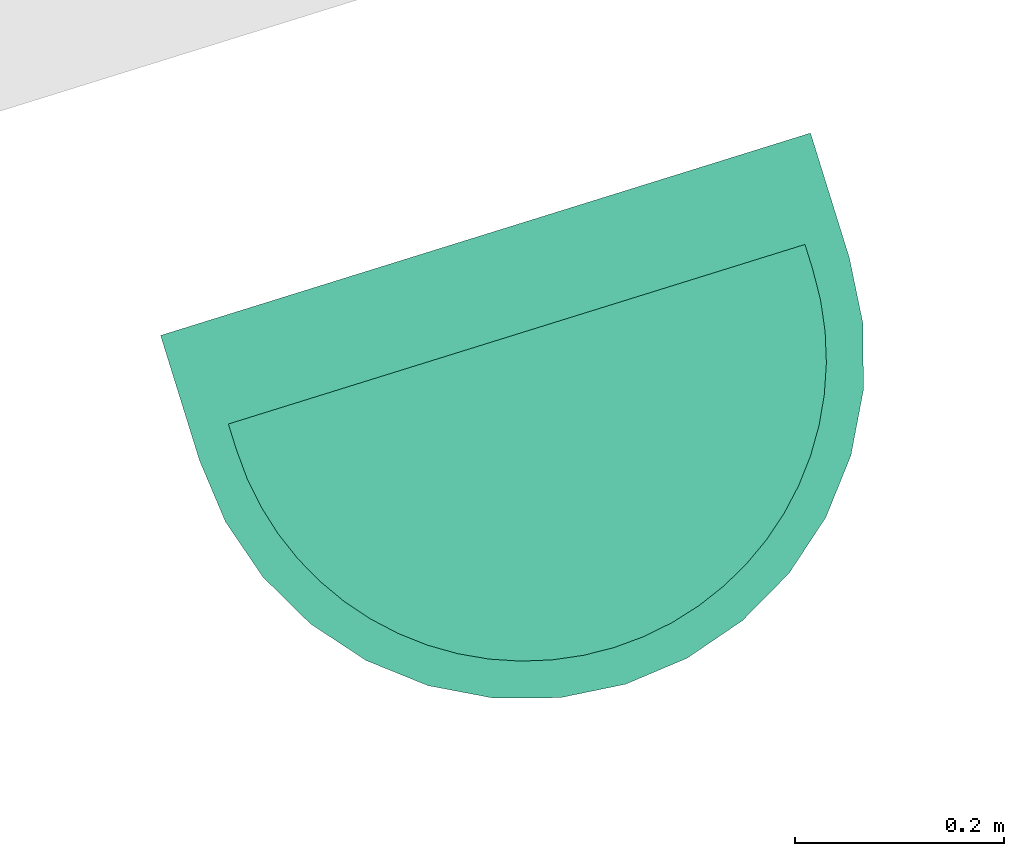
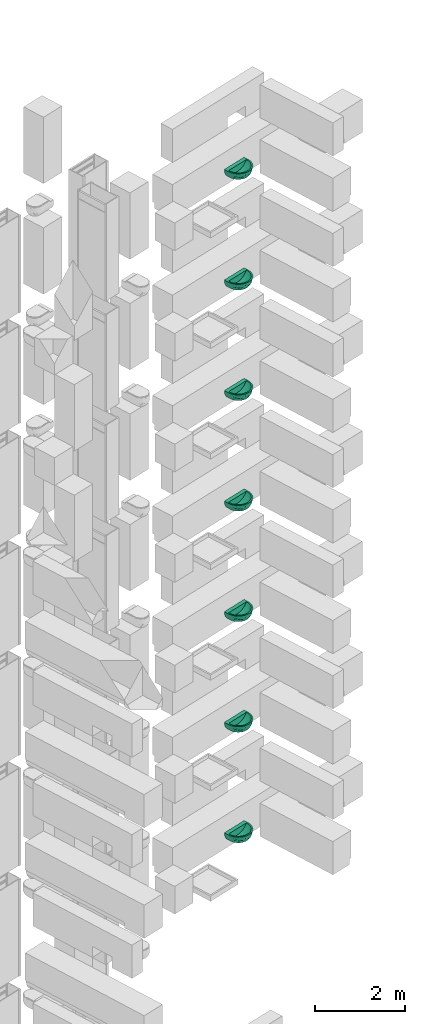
# Not in any storey, part 9 of 17: 7 sanitary terminals.
"""IFC4 model written with IfcOpenShell, lengths in metres."""

from ifc_helpers import new_model, entity, si_unit, converted_unit, direction, frame, origin, place, context, subcontext, project, polygons, source, transform, mapped, material, type_object, type_shapes, element, save


model = new_model("IFC4")

# Units and contexts
model_context = context("Model", 3, precision=1e-05, world=origin(), true_north=direction((6.12323399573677e-17, 1.0)))
body_context = subcontext(model_context, "Body", "Model", "MODEL_VIEW")
ifc_project = project(units=[si_unit("LENGTHUNIT", "METRE"), si_unit("AREAUNIT", "SQUARE_METRE"), converted_unit("PLANEANGLEUNIT", "DEGREE", entity("IfcPlaneAngleMeasure", 0.0174532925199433), si_unit("PLANEANGLEUNIT", "RADIAN"), dimensions=[0, 0, 0, 0, 0, 0, 0]), si_unit("VOLUMEUNIT", "CUBIC_METRE")], contexts=[model_context])

# Sanitary terminals
ifc_material = material(Name="<Unnamed>")
sanitary_terminal_type = type_object("IfcSanitaryTerminalType", Name="NLRS_74_PF_WB_wastafel_gen:wastafel", PredefinedType="SINK", material=ifc_material)
shared_shape = source(origin(), body_context, "Body", "Tessellation", [
    polygons([(0.346918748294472, -0.250000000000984, -6.7), (0.34246627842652, -0.250000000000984, -6.75361232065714), (0.329230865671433, -0.250000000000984, -6.8057556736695), (0.307575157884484, -0.250000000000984, -6.85500134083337), (0.278092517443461, -0.250000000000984, -6.9), (0.278092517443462, -0.124999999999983, -6.9), (0.307569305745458, -0.124999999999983, -6.85501212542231), (0.32922351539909, -0.124999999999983, -6.80577703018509), (0.342460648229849, -0.124999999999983, -6.75364597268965), (0.346918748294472, -0.124999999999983, -6.7), (-0.303081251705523, -0.250000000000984, -6.7), (-0.296836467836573, -0.313404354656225, -6.7), (-0.278342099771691, -0.374372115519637, -6.7), (-0.248308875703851, -0.430560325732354, -6.7), (-0.207890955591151, -0.479809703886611, -6.7), (-0.158641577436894, -0.52022762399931, -6.7), (-0.102453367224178, -0.550260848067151, -6.7), (-0.0414856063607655, -0.568755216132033, -6.7), (0.021918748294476, -0.575000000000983, -6.7), (0.021918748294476, -0.538314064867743, -6.7), (-0.00821701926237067, -0.536734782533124, -6.7), (-0.0380241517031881, -0.532013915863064, -6.7), (-0.0671705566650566, -0.524204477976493, -6.7), (-0.0953421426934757, -0.513391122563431, -6.7), (-0.122231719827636, -0.499691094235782, -6.7), (-0.147543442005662, -0.483254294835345, -6.7), (-0.170998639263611, -0.464261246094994, -6.7), (-0.192339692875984, -0.442920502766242, -6.7), (-0.21133265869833, -0.419466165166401, -6.7), (-0.227769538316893, -0.394155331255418, -6.7), (-0.241470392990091, -0.367265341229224, -6.7), (-0.252285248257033, -0.339090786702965, -6.7), (-0.260095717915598, -0.309940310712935, -6.7), (-0.264816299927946, -0.280133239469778, -6.7), (-0.266395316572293, -0.250000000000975, -6.7), (-0.266395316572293, -0.225000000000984, -6.7), (0.021918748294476, -0.225000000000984, -6.7), (0.021918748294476, -0.124999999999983, -6.7), (-0.303081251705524, -0.124999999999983, -6.7), (0.310232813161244, -0.225000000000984, -6.7), (0.310232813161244, -0.250000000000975, -6.7), (0.308653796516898, -0.280133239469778, -6.7), (0.303933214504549, -0.309940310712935, -6.7), (0.296122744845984, -0.339090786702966, -6.7), (0.285307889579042, -0.367265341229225, -6.7), (0.271607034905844, -0.394155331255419, -6.7), (0.255170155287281, -0.419466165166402, -6.7), (0.236177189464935, -0.442920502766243, -6.7), (0.214836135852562, -0.464261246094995, -6.7), (0.191380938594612, -0.483254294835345, -6.7), (0.166069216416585, -0.499691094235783, -6.7), (0.139179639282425, -0.513391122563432, -6.7), (0.111008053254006, -0.524204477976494, -6.7), (0.0818616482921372, -0.532013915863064, -6.7), (0.0520545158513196, -0.536734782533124, -6.7), (0.0853231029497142, -0.568755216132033, -6.7), (0.146290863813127, -0.550260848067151, -6.7), (0.202479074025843, -0.52022762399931, -6.7), (0.2517284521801, -0.479809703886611, -6.7), (0.292146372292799, -0.430560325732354, -6.7), (0.32217959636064, -0.374372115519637, -6.7), (0.340673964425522, -0.313404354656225, -6.7), (-0.298623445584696, -0.124999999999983, -6.75364421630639), (-0.285382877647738, -0.124999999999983, -6.80578615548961), (-0.26372299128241, -0.124999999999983, -6.85502837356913), (-0.234255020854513, -0.124999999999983, -6.9), (-0.234255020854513, -0.250000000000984, -6.9), (-0.263737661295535, -0.250000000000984, -6.85500134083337), (-0.285393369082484, -0.250000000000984, -6.8057556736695), (-0.298628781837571, -0.250000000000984, -6.75361232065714), (-0.232753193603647, -0.277698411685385, -6.9), (-0.228265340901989, -0.305071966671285, -6.9), (-0.220844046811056, -0.331799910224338, -6.9), (-0.210576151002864, -0.357569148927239, -6.9), (-0.197581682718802, -0.382077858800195, -6.9), (-0.182012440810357, -0.40503893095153, -6.9), (-0.164050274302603, -0.426183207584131, -6.9), (-0.1439051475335, -0.445262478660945, -6.9), (-0.121813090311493, -0.462052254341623, -6.9), (-0.0980340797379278, -0.476354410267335, -6.9), (-0.0728496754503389, -0.487999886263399, -6.9), (-0.0465597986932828, -0.496851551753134, -6.9), (-0.0194777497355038, -0.502806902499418, -6.9), (0.00807674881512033, -0.50579952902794, -6.9), (0.0357845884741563, -0.505798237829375, -6.9), (0.0633306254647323, -0.502804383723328, -6.9), (0.0904016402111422, -0.496850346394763, -6.9), (0.11668363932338, -0.488001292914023, -6.9), (0.141864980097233, -0.476357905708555, -6.9), (0.165644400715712, -0.46205644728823, -6.9), (0.18773840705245, -0.445266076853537, -6.9), (0.207885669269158, -0.426185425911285, -6.9), (0.225849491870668, -0.405039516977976, -6.9), (0.24141970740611, -0.38207698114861, -6.9), (0.254414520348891, -0.357567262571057, -6.9), (0.264682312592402, -0.331797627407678, -6.9), (0.272103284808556, -0.305069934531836, -6.9), (0.27659082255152, -0.277697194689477, -6.9), (-0.257045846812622, -0.372316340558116, -6.81332461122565), (0.300884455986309, -0.372313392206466, -6.81332505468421), (-0.00978342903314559, -0.571877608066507, -6.7), (-0.205655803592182, -0.453737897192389, -6.81102113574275), (0.249493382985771, -0.453737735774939, -6.81102126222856), (0.0536209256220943, -0.571877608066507, -6.7), (0.0219337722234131, -0.556913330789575, -6.80690747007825), (-0.0719694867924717, -0.559508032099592, -6.7), (0.11580698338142, -0.559508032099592, -6.7), (-0.0425022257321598, -0.546258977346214, -6.81707073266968), (-0.165040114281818, -0.491191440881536, -6.81179477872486), (0.20887408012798, -0.49119811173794, -6.81178629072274), (0.0863501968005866, -0.546256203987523, -6.8170719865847), (-0.23446246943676, -0.3802654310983, -6.85140868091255), (0.278301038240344, -0.380263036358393, -6.85140892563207), (-0.120243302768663, -0.518687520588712, -6.81498681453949), (0.164074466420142, -0.518691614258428, -6.81498507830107), (-0.233336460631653, -0.433005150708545, -6.78353976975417), (0.277175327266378, -0.433003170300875, -6.78353992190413), (-0.290060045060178, -0.315925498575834, -6.76283359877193), (0.333897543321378, -0.315925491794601, -6.76283359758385), (-0.275008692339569, -0.312028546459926, -6.81666856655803), (-0.254394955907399, -0.314447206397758, -6.85850014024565), (-0.272362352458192, -0.371908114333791, -6.76451391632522), (0.31884634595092, -0.312026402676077, -6.81666930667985), (0.298232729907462, -0.314444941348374, -6.85850057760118), (0.316201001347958, -0.371905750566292, -6.76451312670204), (-0.0755829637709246, -0.549402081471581, -6.78047862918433), (-0.0690330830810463, -0.524635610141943, -6.84808121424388), (0.119420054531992, -0.549406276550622, -6.7804635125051), (0.112885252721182, -0.524636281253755, -6.84807095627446), (-0.228099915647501, -0.455185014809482, -6.7), (0.27193741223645, -0.455185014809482, -6.7), (-0.183266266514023, -0.50001866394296, -6.7), (0.227103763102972, -0.50001866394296, -6.7), (-0.130547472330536, -0.53524423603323, -6.7), (0.174384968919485, -0.53524423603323, -6.7), (0.278352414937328, -0.250000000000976, -6.74966665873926), (0.238015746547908, -0.250000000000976, -6.79274902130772), (0.190552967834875, -0.250000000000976, -6.82782638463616), (0.137529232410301, -0.250000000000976, -6.85374202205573), (0.0806930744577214, -0.250000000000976, -6.86964132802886), (0.0219187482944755, -0.250000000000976, -6.875), (-0.0368555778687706, -0.250000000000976, -6.86964132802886), (-0.0936917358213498, -0.250000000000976, -6.85374202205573), (-0.146715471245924, -0.250000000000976, -6.82782638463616), (-0.194178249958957, -0.250000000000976, -6.79274902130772), (-0.234514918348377, -0.250000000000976, -6.74966665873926), (-0.119627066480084, -0.397173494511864, -6.80284332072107), (0.16346455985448, -0.397173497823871, -6.8028433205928), (-0.200517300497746, -0.337511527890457, -6.77020203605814), (0.244354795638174, -0.337511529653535, -6.77020203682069), (-0.162633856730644, -0.422041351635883, -6.75485875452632), (0.206471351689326, -0.422041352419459, -6.75485875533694), (0.00220012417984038, -0.442185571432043, -6.81134437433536), (-0.0912046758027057, -0.468814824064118, -6.76200981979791), (0.135042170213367, -0.468814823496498, -6.76200982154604), (0.0498196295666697, -0.355825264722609, -6.85601887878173), (-0.0620730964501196, -0.341760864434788, -6.85025041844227), (0.160889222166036, -0.323929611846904, -6.83433540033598), (0.0405814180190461, -0.492340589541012, -6.76574926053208), (0.0863370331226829, -0.429389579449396, -6.81323879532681), (-0.00909478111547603, -0.495066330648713, -6.76120050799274), (-0.0478694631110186, -0.456606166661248, -6.79097405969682), (-0.0422183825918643, -0.402597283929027, -6.82968821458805), (-0.00740806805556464, -0.361981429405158, -6.8536858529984), (-0.00719351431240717, -0.303117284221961, -6.869305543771), (-0.0504034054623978, -0.497275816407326, -6.7481140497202), (0.115439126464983, -0.373042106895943, -6.83590134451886), (0.101584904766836, -0.312319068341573, -6.85886022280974), (-0.144773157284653, -0.326326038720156, -6.81835264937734), (0.086060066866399, -0.493745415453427, -6.75518056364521), (0.278341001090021, -0.225000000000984, -6.74968131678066), (0.238003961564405, -0.225000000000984, -6.79275951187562), (0.19054233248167, -0.225000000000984, -6.82783283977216), (0.137520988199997, -0.225000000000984, -6.85374515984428), (0.080687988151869, -0.225000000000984, -6.86964226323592), (0.021917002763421, -0.225000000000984, -6.87499999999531), (-0.0368543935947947, -0.225000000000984, -6.869641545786), (-0.0936885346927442, -0.225000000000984, -6.85374324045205), (-0.146711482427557, -0.225000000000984, -6.8278288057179), (-0.19417475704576, -0.225000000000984, -6.79275213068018), (-0.234512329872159, -0.225000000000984, -6.74966998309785)], [[[7, 4, 5]], [[5, 6, 7]], [[4, 7, 8]], [[8, 3, 4]], [[10, 1, 2]], [[3, 9, 2]], [[10, 2, 9]], [[8, 9, 3]], [[19, 104, 56, 107, 57, 135, 58, 133, 59, 131, 60, 61, 62, 1, 10, 38, 39, 11, 12, 13, 14, 130, 15, 132, 16, 134, 17, 106, 18, 101], [20, 21, 22, 23, 24, 25, 26, 27, 28, 29, 30, 31, 32, 33, 34, 35, 36, 37, 40, 41, 42, 43, 44, 45, 46, 47, 48, 49, 50, 51, 52, 53, 54, 55]], [[39, 70, 11]], [[39, 63, 70]], [[69, 70, 63]], [[64, 69, 63]], [[65, 67, 68]], [[64, 65, 68]], [[66, 67, 65]], [[69, 64, 68]], [[9, 8, 7, 6, 66, 65, 64, 63, 39, 38, 10]], [[16, 102, 109]], [[60, 125, 61]], [[124, 123, 100]], [[77, 78, 109]], [[102, 116, 112]], [[109, 76, 77]], [[95, 113, 94]], [[76, 109, 102]], [[114, 109, 78]], [[125, 123, 119]], [[127, 81, 82]], [[105, 101, 108]], [[61, 125, 119]], [[108, 83, 84]], [[109, 114, 17]], [[18, 126, 108]], [[100, 117, 113]], [[114, 127, 126]], [[80, 114, 79]], [[17, 114, 106]], [[18, 106, 126]], [[96, 97, 124]], [[102, 112, 75]], [[118, 13, 12]], [[126, 106, 114]], [[69, 118, 70]], [[120, 99, 122]], [[11, 70, 12]], [[12, 70, 118]], [[131, 59, 117]], [[113, 117, 103]], [[14, 13, 122]], [[108, 127, 82]], [[105, 108, 84]], [[73, 121, 72]], [[112, 73, 74]], [[90, 91, 115]], [[132, 15, 116]], [[121, 68, 67]], [[84, 85, 105]], [[68, 120, 69]], [[120, 68, 121]], [[114, 80, 127]], [[105, 111, 104]], [[73, 112, 121]], [[102, 75, 76]], [[116, 130, 99]], [[67, 71, 121]], [[108, 126, 127]], [[56, 104, 111]], [[124, 5, 4]], [[112, 74, 75]], [[19, 101, 105]], [[19, 105, 104]], [[85, 111, 105]], [[18, 108, 101]], [[86, 87, 111]], [[90, 115, 89]], [[57, 107, 115]], [[103, 58, 110]], [[122, 118, 120]], [[99, 121, 112]], [[103, 110, 93]], [[78, 79, 114]], [[128, 111, 129]], [[100, 131, 117]], [[115, 91, 110]], [[93, 94, 103]], [[86, 111, 85]], [[121, 99, 120]], [[56, 111, 128]], [[118, 122, 13]], [[99, 112, 116]], [[134, 16, 109, 17]], [[110, 91, 92]], [[110, 92, 93]], [[129, 111, 87]], [[117, 133, 103]], [[113, 103, 94]], [[108, 82, 83]], [[123, 124, 4]], [[124, 113, 96]], [[107, 56, 128]], [[124, 100, 113]], [[113, 95, 96]], [[4, 3, 123]], [[124, 98, 5]], [[69, 120, 118]], [[2, 62, 119]], [[129, 88, 89]], [[133, 58, 103]], [[99, 130, 122]], [[62, 2, 1]], [[3, 2, 119]], [[102, 132, 116]], [[125, 100, 123]], [[124, 97, 98]], [[61, 119, 62]], [[135, 57, 110, 58]], [[71, 72, 121]], [[116, 15, 130]], [[131, 100, 125]], [[3, 119, 123]], [[80, 81, 127]], [[128, 115, 107]], [[129, 89, 115]], [[128, 129, 115]], [[88, 129, 87]], [[14, 122, 130]], [[125, 60, 131]], [[132, 102, 16]], [[133, 117, 59]], [[115, 110, 57]], [[151, 26, 25]], [[164, 153, 156]], [[151, 28, 27]], [[156, 168, 165]], [[153, 164, 163]], [[30, 151, 149]], [[25, 24, 154]], [[147, 163, 157]], [[159, 161, 20]], [[170, 160, 159]], [[143, 169, 157]], [[162, 153, 163]], [[162, 166, 161]], [[20, 161, 21]], [[151, 25, 154]], [[153, 162, 161]], [[166, 162, 154]], [[157, 163, 164]], [[32, 149, 33]], [[23, 166, 154]], [[146, 34, 33]], [[156, 160, 167]], [[168, 167, 158]], [[35, 34, 146]], [[149, 32, 31]], [[166, 22, 21]], [[145, 149, 169]], [[144, 169, 143]], [[167, 168, 156]], [[146, 149, 145]], [[33, 149, 146]], [[29, 28, 151]], [[30, 149, 31]], [[138, 150, 137]], [[23, 154, 24]], [[151, 30, 29]], [[156, 165, 164]], [[26, 151, 27]], [[147, 154, 162]], [[157, 165, 142]], [[159, 153, 161]], [[160, 155, 148]], [[155, 51, 152]], [[150, 158, 148]], [[139, 140, 168]], [[53, 52, 155]], [[170, 55, 54]], [[152, 51, 50]], [[152, 49, 48]], [[147, 162, 163]], [[46, 150, 152]], [[153, 159, 160]], [[53, 155, 170]], [[47, 46, 152]], [[148, 167, 160]], [[152, 50, 49]], [[165, 141, 142]], [[150, 46, 45]], [[155, 52, 51]], [[143, 157, 142]], [[158, 150, 138]], [[138, 139, 158]], [[152, 150, 148]], [[169, 149, 147]], [[157, 164, 165]], [[151, 154, 147]], [[150, 136, 137]], [[21, 161, 166]], [[22, 166, 23]], [[150, 43, 136]], [[136, 42, 41]], [[42, 136, 43]], [[159, 20, 55]], [[152, 48, 47]], [[141, 165, 168]], [[44, 43, 150]], [[44, 150, 45]], [[149, 151, 147]], [[167, 148, 158]], [[170, 54, 53]], [[153, 160, 156]], [[155, 152, 148]], [[139, 168, 158]], [[168, 140, 141]], [[157, 169, 147]], [[145, 169, 144]], [[160, 170, 155]], [[55, 170, 159]], [[146, 36, 35]], [[145, 181, 146]], [[179, 144, 143]], [[145, 144, 180]], [[178, 143, 142]], [[181, 36, 146]], [[180, 181, 145]], [[176, 177, 142]], [[178, 179, 143]], [[177, 178, 142]], [[180, 144, 179]], [[142, 141, 176]], [[175, 141, 140]], [[139, 174, 140]], [[172, 138, 137]], [[139, 138, 173]], [[171, 137, 136]], [[175, 140, 174]], [[174, 139, 173]], [[137, 171, 172]], [[172, 173, 138]], [[171, 136, 40]], [[41, 40, 136]], [[141, 175, 176]], [[40, 37, 36, 181, 180, 179, 178, 177, 176, 175, 174, 173, 172, 171]], [[5, 98, 97, 96, 95, 94, 93, 92, 91, 90, 89, 88, 87, 86, 85, 84, 83, 82, 81, 80, 79, 78, 77, 76, 75, 74, 73, 72, 71, 67, 66, 6]]], closed=True),
])
type_shapes(sanitary_terminal_type, [shared_shape])
placement_1 = place(None, frame((13.1347999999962, 11.9886000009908, 0.0), z_axis=(0.0, 0.0, 1.0), x_axis=(0.954770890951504, 0.297342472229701, 0.0)))
placement_2 = place(placement_1, origin())
placement_3 = place(placement_2, frame((0.0, 0.0, 6.9)))
placement_4 = place(placement_3, origin())
sanitary_terminal_1_placement = place(placement_4, frame((74.3530812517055, 11.8999999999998, 7.4)))
element("IfcSanitaryTerminal", 1, at=sanitary_terminal_1_placement, type_object=sanitary_terminal_type, material=ifc_material, Name="NLRS_74_PF_WB_wastafel_gen:wastafel", ObjectType="NLRS_74_PF_WB_wastafel_gen:wastafel", PredefinedType="SINK", context=body_context, shape_type="MappedRepresentation", body=[
    mapped(shared_shape, transform((0.0, 0.0, 0.0), scale=1.0)),
])
placement_5 = place(placement_2, frame((0.0, 0.0, 9.9)))
placement_6 = place(placement_5, origin())
sanitary_terminal_2_placement = place(placement_6, frame((74.3530812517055, 11.8999999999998, 7.4)))
element("IfcSanitaryTerminal", 2, at=sanitary_terminal_2_placement, type_object=sanitary_terminal_type, material=ifc_material, Name="NLRS_74_PF_WB_wastafel_gen:wastafel", ObjectType="NLRS_74_PF_WB_wastafel_gen:wastafel", PredefinedType="SINK", context=body_context, shape_type="MappedRepresentation", body=[
    mapped(shared_shape, transform((0.0, 0.0, 0.0), scale=1.0)),
])
placement_7 = place(placement_2, frame((0.0, 0.0, 12.9)))
placement_8 = place(placement_7, origin())
sanitary_terminal_3_placement = place(placement_8, frame((74.3530812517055, 11.8999999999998, 7.4)))
element("IfcSanitaryTerminal", 3, at=sanitary_terminal_3_placement, type_object=sanitary_terminal_type, material=ifc_material, Name="NLRS_74_PF_WB_wastafel_gen:wastafel", ObjectType="NLRS_74_PF_WB_wastafel_gen:wastafel", PredefinedType="SINK", context=body_context, shape_type="MappedRepresentation", body=[
    mapped(shared_shape, transform((0.0, 0.0, 0.0), scale=1.0)),
])
placement_9 = place(placement_2, frame((0.0, 0.0, 15.9)))
placement_10 = place(placement_9, origin())
sanitary_terminal_4_placement = place(placement_10, frame((74.3530812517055, 11.8999999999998, 7.4)))
element("IfcSanitaryTerminal", 4, at=sanitary_terminal_4_placement, type_object=sanitary_terminal_type, material=ifc_material, Name="NLRS_74_PF_WB_wastafel_gen:wastafel", ObjectType="NLRS_74_PF_WB_wastafel_gen:wastafel", PredefinedType="SINK", context=body_context, shape_type="MappedRepresentation", body=[
    mapped(shared_shape, transform((0.0, 0.0, 0.0), scale=1.0)),
])
placement_11 = place(placement_2, frame((0.0, 0.0, 18.9)))
placement_12 = place(placement_11, origin())
sanitary_terminal_5_placement = place(placement_12, frame((74.3530812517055, 11.8999999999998, 7.4)))
element("IfcSanitaryTerminal", 5, at=sanitary_terminal_5_placement, type_object=sanitary_terminal_type, material=ifc_material, Name="NLRS_74_PF_WB_wastafel_gen:wastafel", ObjectType="NLRS_74_PF_WB_wastafel_gen:wastafel", PredefinedType="SINK", context=body_context, shape_type="MappedRepresentation", body=[
    mapped(shared_shape, transform((0.0, 0.0, 0.0), scale=1.0)),
])
placement_13 = place(placement_2, frame((0.0, 0.0, 21.9)))
placement_14 = place(placement_13, origin())
sanitary_terminal_6_placement = place(placement_14, frame((74.3530812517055, 11.8999999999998, 7.4)))
element("IfcSanitaryTerminal", 6, at=sanitary_terminal_6_placement, type_object=sanitary_terminal_type, material=ifc_material, Name="NLRS_74_PF_WB_wastafel_gen:wastafel", ObjectType="NLRS_74_PF_WB_wastafel_gen:wastafel", PredefinedType="SINK", context=body_context, shape_type="MappedRepresentation", body=[
    mapped(shared_shape, transform((0.0, 0.0, 0.0), scale=1.0)),
])
placement_15 = place(placement_2, frame((0.0, 0.0, 24.9)))
placement_16 = place(placement_15, origin())
sanitary_terminal_7_placement = place(placement_16, frame((74.3530812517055, 11.8999999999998, 7.4)))
element("IfcSanitaryTerminal", 7, at=sanitary_terminal_7_placement, type_object=sanitary_terminal_type, material=ifc_material, Name="NLRS_74_PF_WB_wastafel_gen:wastafel", ObjectType="NLRS_74_PF_WB_wastafel_gen:wastafel", PredefinedType="SINK", context=body_context, shape_type="MappedRepresentation", body=[
    mapped(shared_shape, transform((0.0, 0.0, 0.0), scale=1.0)),
])

save(model, "model.ifc")
